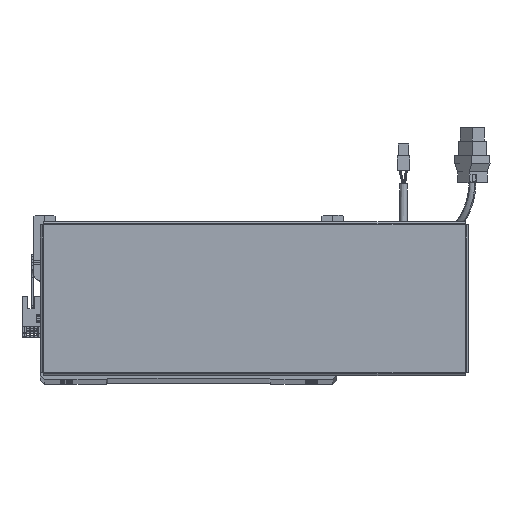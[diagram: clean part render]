
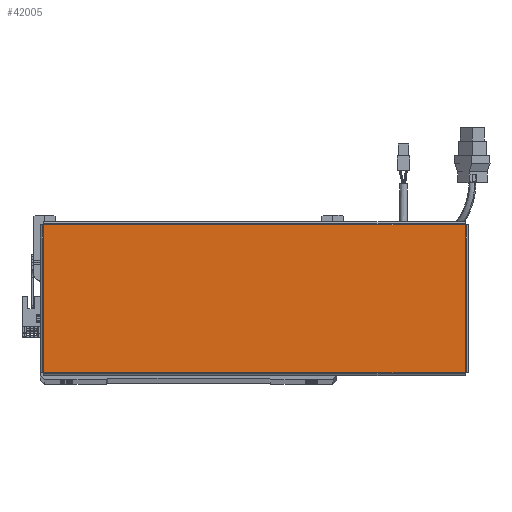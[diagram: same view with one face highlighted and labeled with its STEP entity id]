
A CAD part, top view. The second image highlights one B-rep face of the part: STEP entity #42005.
In plain terms, the highlighted planar face has unit normal (0, 0, 1).
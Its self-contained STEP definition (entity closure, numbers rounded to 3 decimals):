
#3747 = VECTOR ( 'NONE', #36304, 1000. ) ;
#5752 = ORIENTED_EDGE ( 'NONE', *, *, #23216, .T. ) ;
#7336 = CARTESIAN_POINT ( 'NONE',  ( -156.513, 54.763, 0. ) ) ;
#7819 = ORIENTED_EDGE ( 'NONE', *, *, #75133, .T. ) ;
#7820 = EDGE_LOOP ( 'NONE', ( #43468, #5752, #7819, #41068 ) ) ;
#13423 = EDGE_CURVE ( 'NONE', #62308, #62993, #37023, .T. ) ;
#14878 = LINE ( 'NONE', #54604, #19460 ) ;
#16114 = PLANE ( 'NONE',  #45658 ) ;
#18879 = VERTEX_POINT ( 'NONE', #32965 ) ;
#19460 = VECTOR ( 'NONE', #48688, 1000. ) ;
#19472 = DIRECTION ( 'NONE',  ( -1., 0., 0. ) ) ;
#19989 = VERTEX_POINT ( 'NONE', #57420 ) ;
#21196 = CARTESIAN_POINT ( 'NONE',  ( -156.513, 54.793, 0. ) ) ;
#22043 = DIRECTION ( 'NONE',  ( 1., 0., 0. ) ) ;
#23216 = EDGE_CURVE ( 'NONE', #19989, #18879, #25432, .T. ) ;
#25432 = LINE ( 'NONE', #33350, #55997 ) ;
#26653 = DIRECTION ( 'NONE',  ( 0., 1., 0. ) ) ;
#27533 = EDGE_CURVE ( 'NONE', #62993, #19989, #14878, .T. ) ;
#32503 = CARTESIAN_POINT ( 'NONE',  ( -156.513, -54.763, 0. ) ) ;
#32965 = CARTESIAN_POINT ( 'NONE',  ( 156.513, 54.763, 0. ) ) ;
#33350 = CARTESIAN_POINT ( 'NONE',  ( 156.513, -54.793, 0. ) ) ;
#36304 = DIRECTION ( 'NONE',  ( 0., -1., 0. ) ) ;
#37023 = LINE ( 'NONE', #21196, #3747 ) ;
#39950 = FACE_OUTER_BOUND ( 'NONE', #7820, .T. ) ;
#41068 = ORIENTED_EDGE ( 'NONE', *, *, #13423, .T. ) ;
#42005 = ADVANCED_FACE ( 'NONE', ( #39950 ), #16114, .T. ) ;
#43468 = ORIENTED_EDGE ( 'NONE', *, *, #27533, .T. ) ;
#45658 = AXIS2_PLACEMENT_3D ( 'NONE', #69491, #74694, #22043 ) ;
#48688 = DIRECTION ( 'NONE',  ( 1., 0., 0. ) ) ;
#50374 = LINE ( 'NONE', #73394, #68021 ) ;
#54604 = CARTESIAN_POINT ( 'NONE',  ( -156.543, -54.763, 0. ) ) ;
#55997 = VECTOR ( 'NONE', #26653, 1000. ) ;
#57420 = CARTESIAN_POINT ( 'NONE',  ( 156.513, -54.763, 0. ) ) ;
#62308 = VERTEX_POINT ( 'NONE', #7336 ) ;
#62993 = VERTEX_POINT ( 'NONE', #32503 ) ;
#68021 = VECTOR ( 'NONE', #19472, 1000. ) ;
#69491 = CARTESIAN_POINT ( 'NONE',  ( 0., 0., 0. ) ) ;
#73394 = CARTESIAN_POINT ( 'NONE',  ( 156.543, 54.763, 0. ) ) ;
#74694 = DIRECTION ( 'NONE',  ( 0., 0., 1. ) ) ;
#75133 = EDGE_CURVE ( 'NONE', #18879, #62308, #50374, .T. ) ;
